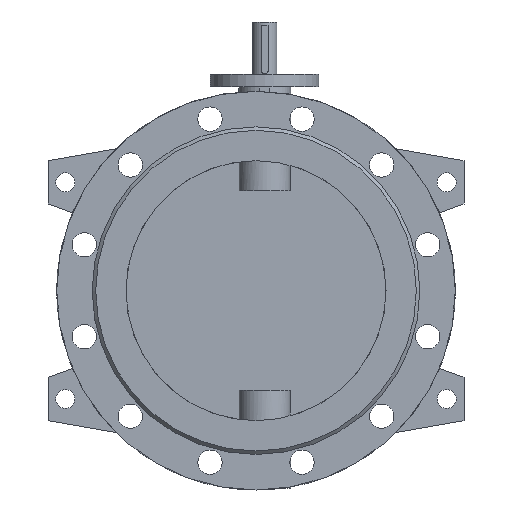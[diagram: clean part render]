
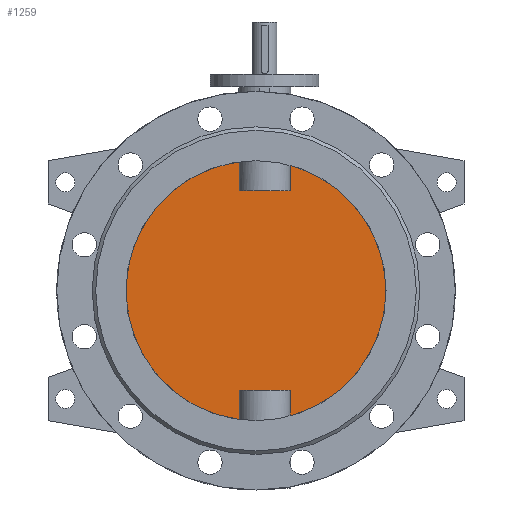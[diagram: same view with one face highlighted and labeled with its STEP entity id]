
A CAD part, front view. The second image highlights one B-rep face of the part: STEP entity #1259.
In plain terms, the highlighted planar face has unit normal (0, -1, 0).
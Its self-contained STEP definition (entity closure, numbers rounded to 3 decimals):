
#1259=ADVANCED_FACE('',(#2605),#2607,.F.);
#2605=FACE_BOUND('',#2606,.T.);
#2606=EDGE_LOOP('',(#3369,#3370,#3371,#3372,#3373,#3374,#3375,#3376));
#2607=PLANE('',#2608);
#2608=AXIS2_PLACEMENT_3D('',#2609,#2610,#2611);
#2609=CARTESIAN_POINT('',(0.,-5.,0.));
#2610=DIRECTION('',(0.,1.,0.));
#2611=DIRECTION('',(1.,0.,0.));
#3369=ORIENTED_EDGE('',*,*,#3751,.T.);
#3370=ORIENTED_EDGE('',*,*,#3767,.T.);
#3371=ORIENTED_EDGE('',*,*,#3768,.T.);
#3372=ORIENTED_EDGE('',*,*,#3769,.T.);
#3373=ORIENTED_EDGE('',*,*,#3753,.T.);
#3374=ORIENTED_EDGE('',*,*,#3770,.T.);
#3375=ORIENTED_EDGE('',*,*,#3771,.T.);
#3376=ORIENTED_EDGE('',*,*,#3772,.T.);
#3751=EDGE_CURVE('',#4351,#4352,#4353,.F.);
#3753=EDGE_CURVE('',#4356,#4354,#4357,.F.);
#3767=EDGE_CURVE('',#4352,#4383,#4384,.T.);
#3768=EDGE_CURVE('',#4383,#4385,#4386,.F.);
#3769=EDGE_CURVE('',#4385,#4356,#4387,.F.);
#3770=EDGE_CURVE('',#4354,#4388,#4389,.F.);
#3771=EDGE_CURVE('',#4388,#4390,#4391,.F.);
#3772=EDGE_CURVE('',#4390,#4351,#4392,.T.);
#4351=VERTEX_POINT('',#6449);
#4352=VERTEX_POINT('',#6450);
#4353=CIRCLE('',#6451,150.);
#4354=VERTEX_POINT('',#6455);
#4356=VERTEX_POINT('',#6561);
#4357=CIRCLE('',#6562,150.);
#4383=VERTEX_POINT('',#6961);
#4384=LINE('',#6962,#6963);
#4385=VERTEX_POINT('',#6965);
#4386=LINE('',#6966,#6967);
#4387=LINE('',#6969,#6970);
#4388=VERTEX_POINT('',#6972);
#4389=LINE('',#6973,#6974);
#4390=VERTEX_POINT('',#6976);
#4391=LINE('',#6977,#6978);
#4392=LINE('',#6980,#6981);
#6449=CARTESIAN_POINT('',(39.58,-5.,-144.684));
#6450=CARTESIAN_POINT('',(39.58,-5.,144.684));
#6451=AXIS2_PLACEMENT_3D('',#6452,#6453,#6454);
#6452=CARTESIAN_POINT('',(0.,-5.,0.));
#6453=DIRECTION('',(0.,1.,0.));
#6454=DIRECTION('',(0.264,0.,0.965));
#6455=CARTESIAN_POINT('',(-19.58,-5.,-148.717));
#6561=CARTESIAN_POINT('',(-19.58,-5.,148.717));
#6562=AXIS2_PLACEMENT_3D('',#6563,#6564,#6565);
#6563=CARTESIAN_POINT('',(0.,-5.,0.));
#6564=DIRECTION('',(0.,1.,0.));
#6565=DIRECTION('',(-0.131,0.,-0.991));
#6961=CARTESIAN_POINT('',(39.58,-5.,115.));
#6962=CARTESIAN_POINT('',(39.58,-5.,144.684));
#6963=VECTOR('',#6964,1.);
#6964=DIRECTION('',(0.,0.,-1.));
#6965=CARTESIAN_POINT('',(-19.58,-5.,115.));
#6966=CARTESIAN_POINT('',(-19.58,-5.,115.));
#6967=VECTOR('',#6968,1.);
#6968=DIRECTION('',(1.,0.,0.));
#6969=CARTESIAN_POINT('',(-19.58,-5.,148.717));
#6970=VECTOR('',#6971,1.);
#6971=DIRECTION('',(0.,0.,-1.));
#6972=CARTESIAN_POINT('',(-19.58,-5.,-115.));
#6973=CARTESIAN_POINT('',(-19.58,-5.,-115.));
#6974=VECTOR('',#6975,1.);
#6975=DIRECTION('',(0.,0.,-1.));
#6976=CARTESIAN_POINT('',(39.58,-5.,-115.));
#6977=CARTESIAN_POINT('',(39.58,-5.,-115.));
#6978=VECTOR('',#6979,1.);
#6979=DIRECTION('',(-1.,0.,0.));
#6980=CARTESIAN_POINT('',(39.58,-5.,-115.));
#6981=VECTOR('',#6982,1.);
#6982=DIRECTION('',(0.,0.,-1.));
